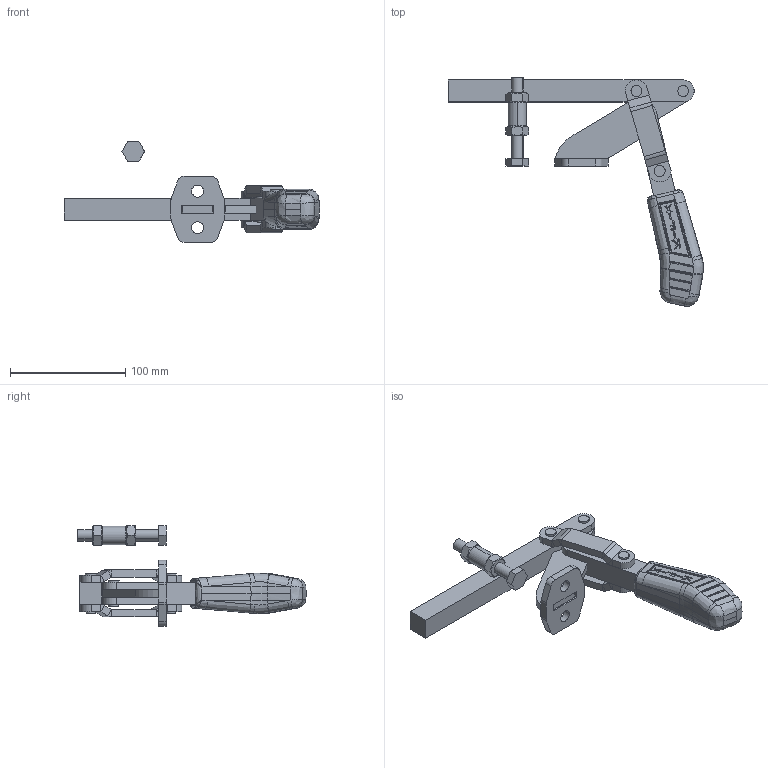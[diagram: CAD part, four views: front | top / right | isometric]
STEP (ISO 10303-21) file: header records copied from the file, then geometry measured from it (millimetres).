
FILE_DESCRIPTION (( 'STEP AP203' ), '1' );
FILE_NAME ('KF-725 D.STEP', '2015-07-16T18:08:07', ( 'Ricardo' ), ( '' ), 'SwSTEP 2.0', 'SolidWorks 2014', '' );
FILE_SCHEMA (( 'CONFIG_CONTROL_DESIGN' ));
Length unit declared in the file: millimetre
Products named in the file (13): 01.20014; 11.50003; 08.10048; 12.50004; 06.50016; PSB-M10; 06.50017; 07.60202; KF-725 D; 02.10030; 02.10031; 03.20048; 20.20005
Assembly tree (16 placements, depth 3):
  KF-725 D
    02.10030
    02.10031
    03.20048
    01.20014
    08.10048  x2
    06.50016  x2
    06.50017  x2
    PSB-M10
      20.20005
      11.50003  x2
      12.50004
    07.60202
Bounding box: 221.11 x 197.78 x 87.34 mm (x, y, z)
Volume: 256853.6 mm3; surface area: 85535 mm2
Topology: 15 solids, 15 shells, 773 faces, 1969 edges, 1234 vertices
Faces by surface type: bspline 271, plane 250, cylinder 159, sphere 52, cone 38, torus 3
Entity records: 29570 total; most frequent: CARTESIAN_POINT 13797, ORIENTED_EDGE 3536, DIRECTION 2152, EDGE_CURVE 1768, VERTEX_POINT 1124, B_SPLINE_CURVE_WITH_KNOTS 851, AXIS2_PLACEMENT_3D 823, EDGE_LOOP 746
